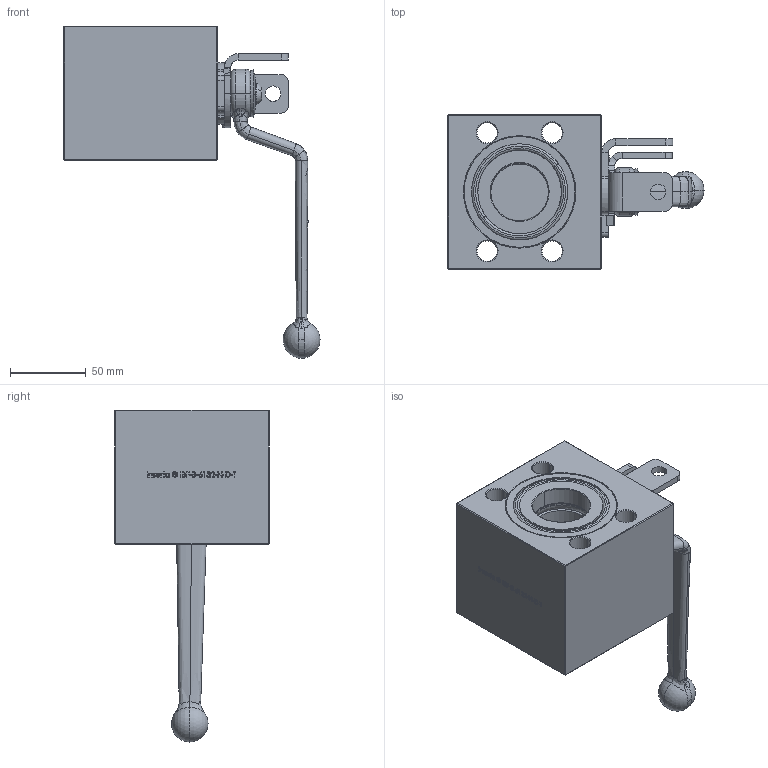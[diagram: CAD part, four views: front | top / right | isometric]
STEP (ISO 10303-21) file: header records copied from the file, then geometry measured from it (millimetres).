
FILE_DESCRIPTION (( 'STEP AP214' ), '1' );
FILE_NAME ('IBF-B-6132-N-D-T-Open.STEP', '2025-12-02T15:45:08', ( '' ), ( '' ), 'SwSTEP 2.0', 'SolidWorks 2023', '' );
FILE_SCHEMA (( 'AUTOMOTIVE_DESIGN' ));
Length unit declared in the file: inch
Products named in the file (1): IBF-B-6132-N-D-T-Open
Bounding box: 168.74 x 101.6 x 218.66 mm (x, y, z)
Volume: 790513.7 mm3; surface area: 158295.3 mm2
Topology: 2 solids, 3 shells, 1064 faces, 2899 edges, 1883 vertices
Faces by surface type: plane 479, bspline 241, cylinder 166, torus 89, cone 65, sphere 24
Entity records: 61100 total; most frequent: CARTESIAN_POINT 36203, ORIENTED_EDGE 5776, DIRECTION 4265, EDGE_CURVE 2888, VERTEX_POINT 1880, AXIS2_PLACEMENT_3D 1463, LINE 1339, VECTOR 1339
